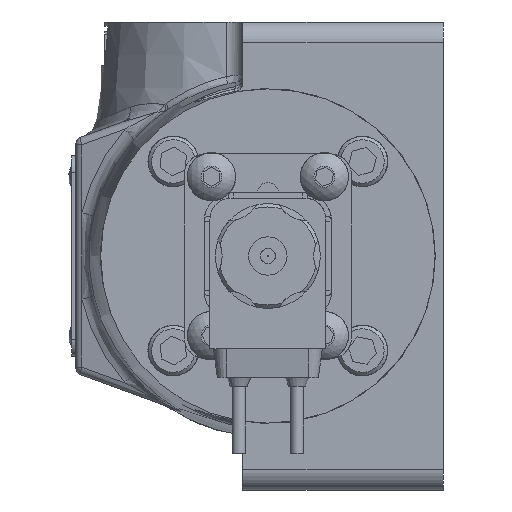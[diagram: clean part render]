
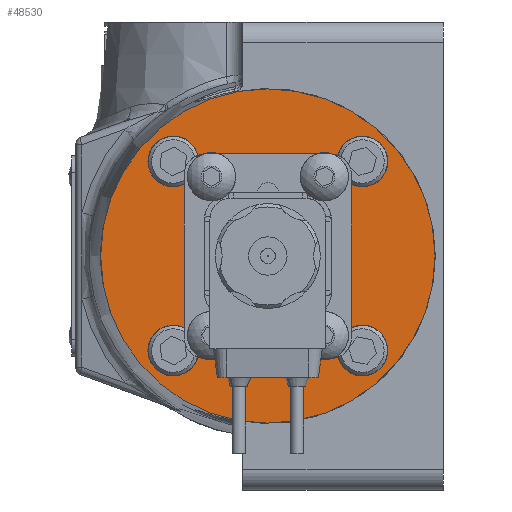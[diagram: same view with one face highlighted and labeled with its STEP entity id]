
A CAD part, left-side view. The second image highlights one B-rep face of the part: STEP entity #48530.
In plain terms, the highlighted planar face has unit normal (-1, 0, 0).
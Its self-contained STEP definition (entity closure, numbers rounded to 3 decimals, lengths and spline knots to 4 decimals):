
#2607=FACE_BOUND('',#8062,.T.);
#3235=PLANE('',#52602);
#5088=FACE_OUTER_BOUND('',#8061,.T.);
#8061=EDGE_LOOP('',(#36176));
#8062=EDGE_LOOP('',(#36177,#36178,#36179,#36180,#36181,#36182,#36183,#36184,
#36185,#36186,#36187,#36188,#36189,#36190,#36191,#36192));
#10998=CIRCLE('',#52603,3.175);
#10999=CIRCLE('',#52604,0.4);
#11000=CIRCLE('',#52605,0.4);
#11001=CIRCLE('',#52606,0.4826);
#11002=CIRCLE('',#52607,0.4826);
#11003=CIRCLE('',#52608,0.4826);
#11004=CIRCLE('',#52609,0.4826);
#11005=CIRCLE('',#52610,0.4);
#11006=CIRCLE('',#52611,0.4);
#11007=CIRCLE('',#52612,0.4826);
#11008=CIRCLE('',#52613,0.4826);
#11009=CIRCLE('',#52614,0.4826);
#11010=CIRCLE('',#52615,0.4826);
#13640=LINE('',#80342,#16779);
#13641=LINE('',#80350,#16780);
#13642=LINE('',#80358,#16781);
#13643=LINE('',#80366,#16782);
#16779=VECTOR('',#61457,1.);
#16780=VECTOR('',#61464,1.);
#16781=VECTOR('',#61471,1.);
#16782=VECTOR('',#61478,1.);
#20478=VERTEX_POINT('',#80336);
#20479=VERTEX_POINT('',#80338);
#20480=VERTEX_POINT('',#80339);
#20481=VERTEX_POINT('',#80341);
#20482=VERTEX_POINT('',#80343);
#20483=VERTEX_POINT('',#80345);
#20484=VERTEX_POINT('',#80347);
#20485=VERTEX_POINT('',#80349);
#20486=VERTEX_POINT('',#80351);
#20487=VERTEX_POINT('',#80353);
#20488=VERTEX_POINT('',#80355);
#20489=VERTEX_POINT('',#80357);
#20490=VERTEX_POINT('',#80359);
#20491=VERTEX_POINT('',#80361);
#20492=VERTEX_POINT('',#80363);
#20493=VERTEX_POINT('',#80365);
#20494=VERTEX_POINT('',#80367);
#26045=EDGE_CURVE('',#20478,#20478,#10998,.T.);
#26046=EDGE_CURVE('',#20479,#20480,#10999,.T.);
#26047=EDGE_CURVE('',#20479,#20481,#13640,.T.);
#26048=EDGE_CURVE('',#20482,#20481,#11000,.T.);
#26049=EDGE_CURVE('',#20482,#20483,#11001,.T.);
#26050=EDGE_CURVE('',#20483,#20484,#11002,.T.);
#26051=EDGE_CURVE('',#20484,#20485,#13641,.T.);
#26052=EDGE_CURVE('',#20485,#20486,#11003,.T.);
#26053=EDGE_CURVE('',#20486,#20487,#11004,.T.);
#26054=EDGE_CURVE('',#20488,#20487,#11005,.T.);
#26055=EDGE_CURVE('',#20488,#20489,#13642,.T.);
#26056=EDGE_CURVE('',#20490,#20489,#11006,.T.);
#26057=EDGE_CURVE('',#20490,#20491,#11007,.T.);
#26058=EDGE_CURVE('',#20491,#20492,#11008,.T.);
#26059=EDGE_CURVE('',#20492,#20493,#13643,.T.);
#26060=EDGE_CURVE('',#20493,#20494,#11009,.T.);
#26061=EDGE_CURVE('',#20494,#20480,#11010,.T.);
#36176=ORIENTED_EDGE('',*,*,#26045,.F.);
#36177=ORIENTED_EDGE('',*,*,#26046,.F.);
#36178=ORIENTED_EDGE('',*,*,#26047,.T.);
#36179=ORIENTED_EDGE('',*,*,#26048,.F.);
#36180=ORIENTED_EDGE('',*,*,#26049,.T.);
#36181=ORIENTED_EDGE('',*,*,#26050,.T.);
#36182=ORIENTED_EDGE('',*,*,#26051,.T.);
#36183=ORIENTED_EDGE('',*,*,#26052,.T.);
#36184=ORIENTED_EDGE('',*,*,#26053,.T.);
#36185=ORIENTED_EDGE('',*,*,#26054,.F.);
#36186=ORIENTED_EDGE('',*,*,#26055,.T.);
#36187=ORIENTED_EDGE('',*,*,#26056,.F.);
#36188=ORIENTED_EDGE('',*,*,#26057,.T.);
#36189=ORIENTED_EDGE('',*,*,#26058,.T.);
#36190=ORIENTED_EDGE('',*,*,#26059,.T.);
#36191=ORIENTED_EDGE('',*,*,#26060,.T.);
#36192=ORIENTED_EDGE('',*,*,#26061,.T.);
#48530=ADVANCED_FACE('',(#5088,#2607),#3235,.T.);
#52602=AXIS2_PLACEMENT_3D('',#80335,#61451,#61452);
#52603=AXIS2_PLACEMENT_3D('',#80337,#61453,#61454);
#52604=AXIS2_PLACEMENT_3D('',#80340,#61455,#61456);
#52605=AXIS2_PLACEMENT_3D('',#80344,#61458,#61459);
#52606=AXIS2_PLACEMENT_3D('',#80346,#61460,#61461);
#52607=AXIS2_PLACEMENT_3D('',#80348,#61462,#61463);
#52608=AXIS2_PLACEMENT_3D('',#80352,#61465,#61466);
#52609=AXIS2_PLACEMENT_3D('',#80354,#61467,#61468);
#52610=AXIS2_PLACEMENT_3D('',#80356,#61469,#61470);
#52611=AXIS2_PLACEMENT_3D('',#80360,#61472,#61473);
#52612=AXIS2_PLACEMENT_3D('',#80362,#61474,#61475);
#52613=AXIS2_PLACEMENT_3D('',#80364,#61476,#61477);
#52614=AXIS2_PLACEMENT_3D('',#80368,#61479,#61480);
#52615=AXIS2_PLACEMENT_3D('',#80369,#61481,#61482);
#61451=DIRECTION('center_axis',(-1.,0.,0.));
#61452=DIRECTION('ref_axis',(0.,0.,
1.));
#61453=DIRECTION('center_axis',(1.,0.,0.));
#61454=DIRECTION('ref_axis',(0.,0.,
-1.));
#61455=DIRECTION('center_axis',(-1.,0.,0.));
#61456=DIRECTION('ref_axis',(0.,0.707,0.707));
#61457=DIRECTION('',(0.,-1.,0.));
#61458=DIRECTION('center_axis',(-1.,0.,0.));
#61459=DIRECTION('ref_axis',(0.,-0.707,0.707));
#61460=DIRECTION('center_axis',(1.,0.,0.));
#61461=DIRECTION('ref_axis',(0.,0.,
-1.));
#61462=DIRECTION('center_axis',(1.,0.,0.));
#61463=DIRECTION('ref_axis',(0.,0.,
-1.));
#61464=DIRECTION('',(0.,0.,-1.));
#61465=DIRECTION('center_axis',(1.,0.,0.));
#61466=DIRECTION('ref_axis',(0.,1.,0.));
#61467=DIRECTION('center_axis',(1.,0.,0.));
#61468=DIRECTION('ref_axis',(0.,1.,0.));
#61469=DIRECTION('center_axis',(-1.,0.,0.));
#61470=DIRECTION('ref_axis',(0.,-0.707,-0.707));
#61471=DIRECTION('',(0.,1.,0.));
#61472=DIRECTION('center_axis',(-1.,0.,0.));
#61473=DIRECTION('ref_axis',(0.,0.707,-0.707));
#61474=DIRECTION('center_axis',(1.,0.,0.));
#61475=DIRECTION('ref_axis',(0.,0.,
1.));
#61476=DIRECTION('center_axis',(1.,0.,0.));
#61477=DIRECTION('ref_axis',(0.,0.,
1.));
#61478=DIRECTION('',(0.,0.,1.));
#61479=DIRECTION('center_axis',(1.,0.,0.));
#61480=DIRECTION('ref_axis',(0.,-1.,0.));
#61481=DIRECTION('center_axis',(1.,0.,0.));
#61482=DIRECTION('ref_axis',(0.,-1.,0.));
#80335=CARTESIAN_POINT('Origin',(-6.9025,1.5875,0.));
#80336=CARTESIAN_POINT('',(-6.9025,0.,3.175));
#80337=CARTESIAN_POINT('Origin',(-6.9025,0.,0.));
#80338=CARTESIAN_POINT('',(-6.9025,1.175,1.94));
#80339=CARTESIAN_POINT('',(-6.9025,1.3271,1.91));
#80340=CARTESIAN_POINT('Origin',(-6.9025,1.175,1.54));
#80341=CARTESIAN_POINT('',(-6.9025,-1.175,1.94));
#80342=CARTESIAN_POINT('',(-6.9025,1.575,1.94));
#80343=CARTESIAN_POINT('',(-6.9025,-1.3271,1.91));
#80344=CARTESIAN_POINT('Origin',(-6.9025,-1.175,1.54));
#80345=CARTESIAN_POINT('',(-6.9025,-1.7961,2.2787));
#80346=CARTESIAN_POINT('Origin',(-6.9025,-1.7961,1.7961));
#80347=CARTESIAN_POINT('',(-6.9025,-1.575,1.3671));
#80348=CARTESIAN_POINT('Origin',(-6.9025,-1.7961,1.7961));
#80349=CARTESIAN_POINT('',(-6.9025,-1.575,-1.3671));
#80350=CARTESIAN_POINT('',(-6.9025,-1.575,1.94));
#80351=CARTESIAN_POINT('',(-6.9025,-2.2787,-1.7961));
#80352=CARTESIAN_POINT('Origin',(-6.9025,-1.7961,-1.7961));
#80353=CARTESIAN_POINT('',(-6.9025,-1.3271,-1.91));
#80354=CARTESIAN_POINT('Origin',(-6.9025,-1.7961,-1.7961));
#80355=CARTESIAN_POINT('',(-6.9025,-1.175,-1.94));
#80356=CARTESIAN_POINT('Origin',(-6.9025,-1.175,-1.54));
#80357=CARTESIAN_POINT('',(-6.9025,1.175,-1.94));
#80358=CARTESIAN_POINT('',(-6.9025,-1.575,-1.94));
#80359=CARTESIAN_POINT('',(-6.9025,1.3271,-1.91));
#80360=CARTESIAN_POINT('Origin',(-6.9025,1.175,-1.54));
#80361=CARTESIAN_POINT('',(-6.9025,1.7961,-2.2787));
#80362=CARTESIAN_POINT('Origin',(-6.9025,1.7961,-1.7961));
#80363=CARTESIAN_POINT('',(-6.9025,1.575,-1.3671));
#80364=CARTESIAN_POINT('Origin',(-6.9025,1.7961,-1.7961));
#80365=CARTESIAN_POINT('',(-6.9025,1.575,1.3671));
#80366=CARTESIAN_POINT('',(-6.9025,1.575,-1.94));
#80367=CARTESIAN_POINT('',(-6.9025,2.2787,1.7961));
#80368=CARTESIAN_POINT('Origin',(-6.9025,1.7961,1.7961));
#80369=CARTESIAN_POINT('Origin',(-6.9025,1.7961,1.7961));
